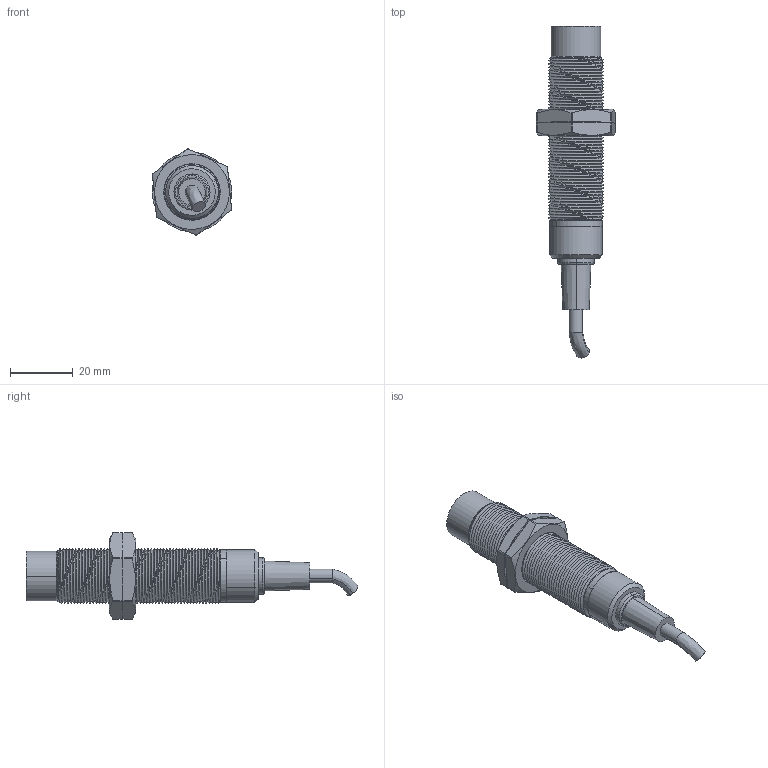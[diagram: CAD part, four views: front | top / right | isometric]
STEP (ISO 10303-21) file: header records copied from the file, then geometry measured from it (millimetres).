
FILE_DESCRIPTION (( 'STEP AP214' ), '1' );
FILE_NAME ('M18 Proximity Sensor.STEP', '2021-12-22T10:21:09', ( '' ), ( '' ), 'SwSTEP 2.0', 'SolidWorks 2014', '' );
FILE_SCHEMA (( 'AUTOMOTIVE_DESIGN' ));
Length unit declared in the file: millimetre
Products named in the file (1): M18 Proximity Sensor
Bounding box: 25.4 x 105.73 x 27.43 mm (x, y, z)
Surface area: 10036 mm2 (no closed solid volume)
Topology: 0 solids, 9 shells, 78 faces, 198 edges, 134 vertices
Faces by surface type: plane 26, cylinder 24, cone 22, bspline 4, torus 2
Entity records: 7590 total; most frequent: CARTESIAN_POINT 4850, DIRECTION 394, ORIENTED_EDGE 362, EDGE_CURVE 198, AXIS2_PLACEMENT_3D 163, VERTEX_POINT 134, EDGE_LOOP 90, CIRCLE 88
